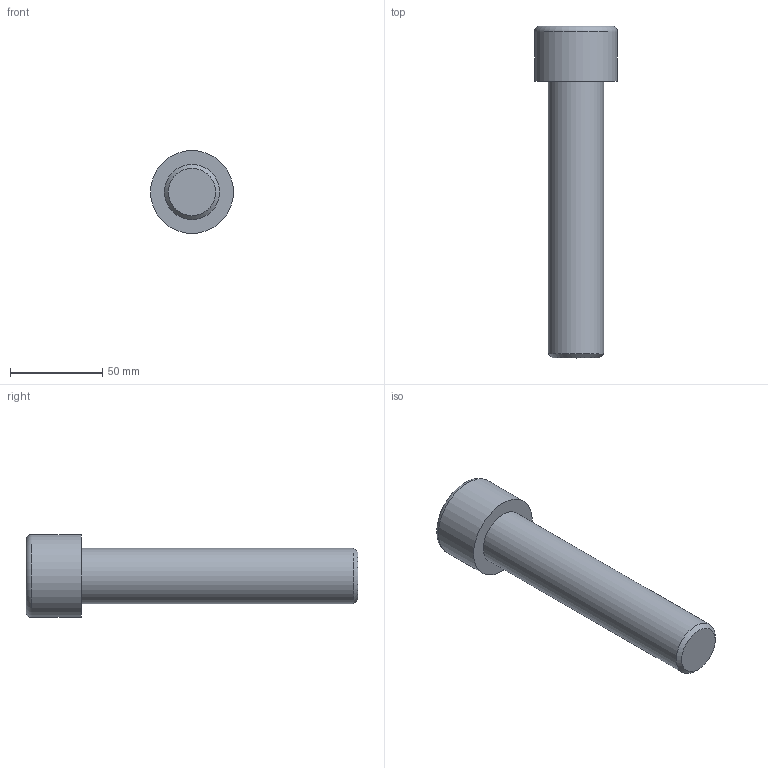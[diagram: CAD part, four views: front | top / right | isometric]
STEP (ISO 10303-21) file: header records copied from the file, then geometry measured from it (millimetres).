
FILE_DESCRIPTION(/* description */ (''),/* implementation_level */ '2;1');
FILE_NAME(/* name */ 'C:\Users\D\Documents\Inventor\各種小物\JIS\JIS B 1176 六角穴付きボルト\M30x150.stp',/* time_stamp */ '2022-05-09T19:01:47+09:00',/* author */ ('D'),/* organization */ (''),/* preprocessor_version */ 'ST-DEVELOPER v18',/* originating_system */ 'Autodesk Inventor 2020',/* authorisation */ '');
FILE_SCHEMA (('AUTOMOTIVE_DESIGN { 1 0 10303 214 3 1 1 }'));
Length unit declared in the file: millimetre
Products named in the file (1): M1.6x2.5
Bounding box: 45 x 180 x 45 mm (x, y, z)
Volume: 145567.5 mm3; surface area: 22543.7 mm2
Topology: 1 solids, 1 shells, 14 faces, 33 edges, 22 vertices
Faces by surface type: plane 9, cone 2, cylinder 2, torus 1
Full cylindrical faces by diameter (mm): 30 x1, 45 x1
Entity records: 435 total; most frequent: CARTESIAN_POINT 83, ORIENTED_EDGE 64, DIRECTION 64, EDGE_CURVE 32, AXIS2_PLACEMENT_3D 24, VERTEX_POINT 22, EDGE_LOOP 16, LINE 16
